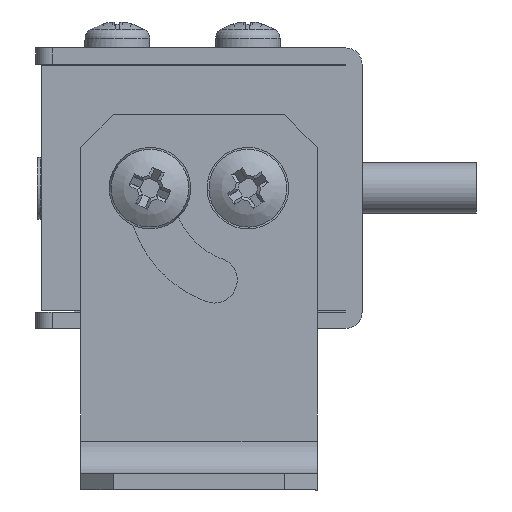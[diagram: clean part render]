
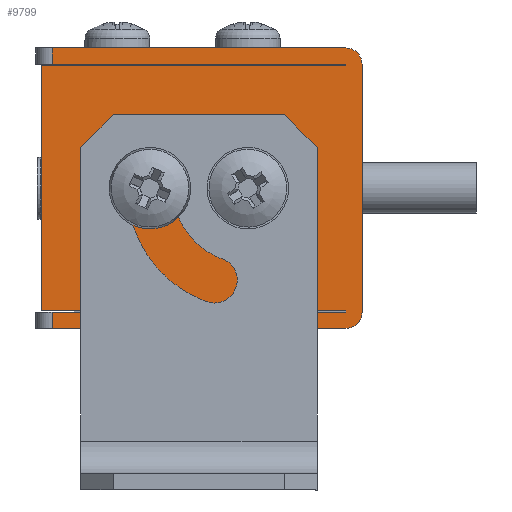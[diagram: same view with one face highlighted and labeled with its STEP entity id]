
A CAD part, left-side view. The second image highlights one B-rep face of the part: STEP entity #9799.
In plain terms, the highlighted planar face has unit normal (-1, 0, 0).
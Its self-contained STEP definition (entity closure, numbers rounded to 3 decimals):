
#261=PLANE('',#10651);
#469=FACE_BOUND('',#1697,.T.);
#470=FACE_BOUND('',#1698,.T.);
#1132=FACE_OUTER_BOUND('',#1696,.T.);
#1696=EDGE_LOOP('',(#7600,#7601,#7602,#7603,#7604,#7605,#7606,#7607,#7608,
#7609,#7610,#7611,#7612,#7613));
#1697=EDGE_LOOP('',(#7614));
#1698=EDGE_LOOP('',(#7615));
#2035=LINE('',#15085,#2585);
#2073=LINE('',#15287,#2623);
#2082=LINE('',#15305,#2632);
#2195=LINE('',#17204,#2745);
#2200=LINE('',#17213,#2750);
#2219=LINE('',#17259,#2769);
#2220=LINE('',#17263,#2770);
#2225=LINE('',#17276,#2775);
#2228=LINE('',#17284,#2778);
#2231=LINE('',#17295,#2781);
#2237=LINE('',#17309,#2787);
#2238=LINE('',#17310,#2788);
#2585=VECTOR('',#11666,1000.);
#2623=VECTOR('',#11812,10.);
#2632=VECTOR('',#11823,10.);
#2745=VECTOR('',#12546,1000.);
#2750=VECTOR('',#12553,1000.);
#2769=VECTOR('',#12602,1000.);
#2770=VECTOR('',#12605,1000.);
#2775=VECTOR('',#12614,1000.);
#2778=VECTOR('',#12621,1000.);
#2781=VECTOR('',#12630,1000.);
#2787=VECTOR('',#12644,1000.);
#2788=VECTOR('',#12645,1000.);
#3067=CIRCLE('',#10091,1.25);
#3069=CIRCLE('',#10094,1.25);
#3348=CIRCLE('',#10652,1.);
#3349=CIRCLE('',#10653,1.);
#3642=VERTEX_POINT('',#14086);
#3644=VERTEX_POINT('',#14092);
#3798=VERTEX_POINT('',#15082);
#3799=VERTEX_POINT('',#15084);
#3845=VERTEX_POINT('',#15286);
#3853=VERTEX_POINT('',#15303);
#4134=VERTEX_POINT('',#17203);
#4137=VERTEX_POINT('',#17211);
#4149=VERTEX_POINT('',#17257);
#4150=VERTEX_POINT('',#17261);
#4151=VERTEX_POINT('',#17262);
#4156=VERTEX_POINT('',#17273);
#4157=VERTEX_POINT('',#17275);
#4160=VERTEX_POINT('',#17283);
#4164=VERTEX_POINT('',#17293);
#4165=VERTEX_POINT('',#17294);
#4612=EDGE_CURVE('',#3642,#3642,#3067,.T.);
#4615=EDGE_CURVE('',#3644,#3644,#3069,.T.);
#4846=EDGE_CURVE('',#3798,#3799,#2035,.T.);
#4917=EDGE_CURVE('',#3845,#3799,#2073,.T.);
#4926=EDGE_CURVE('',#3853,#3798,#2082,.T.);
#5341=EDGE_CURVE('',#3845,#4134,#2195,.T.);
#5346=EDGE_CURVE('',#4137,#3853,#2200,.T.);
#5367=EDGE_CURVE('',#4149,#4137,#2219,.T.);
#5368=EDGE_CURVE('',#4150,#4151,#2220,.T.);
#5374=EDGE_CURVE('',#4156,#4157,#2225,.T.);
#5378=EDGE_CURVE('',#4134,#4160,#2228,.T.);
#5383=EDGE_CURVE('',#4164,#4165,#2231,.T.);
#5391=EDGE_CURVE('',#4156,#4160,#2237,.T.);
#5392=EDGE_CURVE('',#4149,#4164,#2238,.T.);
#5393=EDGE_CURVE('',#4165,#4151,#3348,.T.);
#5394=EDGE_CURVE('',#4150,#4157,#3349,.T.);
#7600=ORIENTED_EDGE('',*,*,#5374,.F.);
#7601=ORIENTED_EDGE('',*,*,#5391,.T.);
#7602=ORIENTED_EDGE('',*,*,#5378,.F.);
#7603=ORIENTED_EDGE('',*,*,#5341,.F.);
#7604=ORIENTED_EDGE('',*,*,#4917,.T.);
#7605=ORIENTED_EDGE('',*,*,#4846,.F.);
#7606=ORIENTED_EDGE('',*,*,#4926,.F.);
#7607=ORIENTED_EDGE('',*,*,#5346,.F.);
#7608=ORIENTED_EDGE('',*,*,#5367,.F.);
#7609=ORIENTED_EDGE('',*,*,#5392,.T.);
#7610=ORIENTED_EDGE('',*,*,#5383,.T.);
#7611=ORIENTED_EDGE('',*,*,#5393,.T.);
#7612=ORIENTED_EDGE('',*,*,#5368,.F.);
#7613=ORIENTED_EDGE('',*,*,#5394,.T.);
#7614=ORIENTED_EDGE('',*,*,#4612,.T.);
#7615=ORIENTED_EDGE('',*,*,#4615,.T.);
#9799=ADVANCED_FACE('',(#1132,#469,#470),#261,.F.);
#10091=AXIS2_PLACEMENT_3D('',#14087,#11242,#11243);
#10094=AXIS2_PLACEMENT_3D('',#14093,#11249,#11250);
#10651=AXIS2_PLACEMENT_3D('',#17308,#12642,#12643);
#10652=AXIS2_PLACEMENT_3D('',#17311,#12646,#12647);
#10653=AXIS2_PLACEMENT_3D('',#17312,#12648,#12649);
#11242=DIRECTION('center_axis',(1.,0.,0.));
#11243=DIRECTION('ref_axis',(0.,0.,
1.));
#11249=DIRECTION('center_axis',(1.,0.,0.));
#11250=DIRECTION('ref_axis',(0.,0.,
1.));
#11666=DIRECTION('',(0.,0.,1.));
#11812=DIRECTION('',(0.,1.,0.));
#11823=DIRECTION('',(0.,1.,0.));
#12546=DIRECTION('',(0.,0.,1.));
#12553=DIRECTION('',(0.,0.,1.));
#12602=DIRECTION('',(0.,-1.,0.));
#12605=DIRECTION('',(0.,0.,-1.));
#12614=DIRECTION('',(0.,-1.,0.));
#12621=DIRECTION('',(0.,1.,0.));
#12630=DIRECTION('',(0.,-1.,0.));
#12642=DIRECTION('center_axis',(1.,0.,0.));
#12643=DIRECTION('ref_axis',(0.,0.,
-1.));
#12644=DIRECTION('',(0.,0.,-1.));
#12645=DIRECTION('',(0.,0.,-1.));
#12646=DIRECTION('center_axis',(-1.,0.,0.));
#12647=DIRECTION('ref_axis',(0.,0.,
-1.));
#12648=DIRECTION('center_axis',(-1.,0.,0.));
#12649=DIRECTION('ref_axis',(0.,0.,
-1.));
#14086=CARTESIAN_POINT('',(-191.,7.,7.35));
#14087=CARTESIAN_POINT('Origin',(-191.,7.,8.6));
#14092=CARTESIAN_POINT('',(-191.,13.,7.35));
#14093=CARTESIAN_POINT('Origin',(-191.,13.,8.6));
#15082=CARTESIAN_POINT('',(-191.,19.65,1.1));
#15084=CARTESIAN_POINT('',(-191.,19.65,16.1));
#15085=CARTESIAN_POINT('',(-191.,19.65,1.1));
#15286=CARTESIAN_POINT('',(-191.,1.,16.1));
#15287=CARTESIAN_POINT('',(-191.,19.65,16.1));
#15303=CARTESIAN_POINT('',(-191.,1.,1.1));
#15305=CARTESIAN_POINT('',(-191.,19.65,1.1));
#17203=CARTESIAN_POINT('',(-191.,1.,16.2));
#17204=CARTESIAN_POINT('',(-191.,1.,1.));
#17211=CARTESIAN_POINT('',(-191.,1.,1.));
#17213=CARTESIAN_POINT('',(-191.,1.,1.));
#17257=CARTESIAN_POINT('',(-191.,19.,1.));
#17259=CARTESIAN_POINT('',(-191.,20.,1.));
#17261=CARTESIAN_POINT('',(-191.,0.,16.2));
#17262=CARTESIAN_POINT('',(-191.,0.,1.));
#17263=CARTESIAN_POINT('',(-191.,0.,17.2));
#17273=CARTESIAN_POINT('',(-191.,19.,17.2));
#17275=CARTESIAN_POINT('',(-191.,1.,17.2));
#17276=CARTESIAN_POINT('',(-191.,20.,17.2));
#17283=CARTESIAN_POINT('',(-191.,19.,16.2));
#17284=CARTESIAN_POINT('',(-191.,20.,16.2));
#17293=CARTESIAN_POINT('',(-191.,19.,0.));
#17294=CARTESIAN_POINT('',(-191.,1.,0.));
#17295=CARTESIAN_POINT('',(-191.,20.,0.));
#17308=CARTESIAN_POINT('Origin',(-191.,20.,17.2));
#17309=CARTESIAN_POINT('',(-191.,19.,17.2));
#17310=CARTESIAN_POINT('',(-191.,19.,17.2));
#17311=CARTESIAN_POINT('Origin',(-191.,1.,1.));
#17312=CARTESIAN_POINT('Origin',(-191.,1.,16.2));
